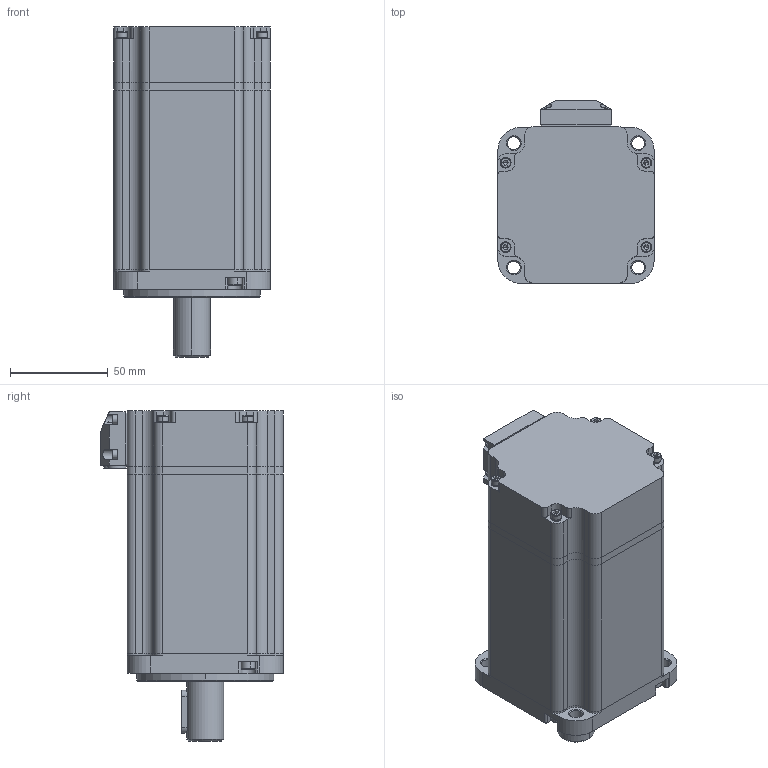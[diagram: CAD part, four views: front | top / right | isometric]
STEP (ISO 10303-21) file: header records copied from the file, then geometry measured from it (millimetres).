
FILE_DESCRIPTION (( 'STEP AP203' ), '1' );
FILE_NAME ('9.5890-SMC80S-0100-30AAK-5SH.STEP', '2020-09-29T07:09:35', ( 'PC' ), ( 'Microsoft' ), 'SwSTEP 2.0', 'SolidWorks 2018', '' );
FILE_SCHEMA (( 'CONFIG_CONTROL_DESIGN' ));
Length unit declared in the file: millimetre
Products named in the file (27): 10105010016-内六角圆柱头螺钉-GB70-85 M3×16(发黑); 80ヶ傷裔И璃; 207041246-蛌赽郪璃; 10105010023-内六角圆柱头螺钉-GB70-85 M3×40(发黑); 10109010094-前端盖-80毛塑（毛坯同：10109010051）; 10105080002-轴承-GB／T276-94深沟球轴承6002-2Z; 10105030019-弹簧垫圈-GB93-87 3MM; 10105030002-孔用挡圈-GB893.1-86 42MM; 10105080003-轴承-GB／T276-94 NSK深沟球轴承6004-2Z; 10110060026-萇埭竘盄菜-L36-W27.5-耳9-耳5.5; 10105030009-疏倛粟俶菜え-GB 955-87 ?42 汛=0.5 H=3.2; 10109030201-后端盖-80毛塑(毛坯同：10109030172); 10109090020-萇埭竘盄碟-L36-W27.5-耳10-耳8; 10105010077-内六角圆柱头螺钉-GB70-85 M4x14(发黑); 10105030001-孔用挡圈-GB893.1-86 32MM; 10105010005-内六角圆柱头螺钉-GB70-85 M2.5×10(发黑); 10109100002-轴承垫圈-SMH80-753028ENC(KGK80-0002); 10105030027-轴用挡圈-GB894.1-86 15MM; 10109020357-儂褲-80L92.9禱呿; 10105050002-埴芛す瑩A倰-6x6x22 GB 1096; 10214020143-晤鎢ん-TS6214N341; 207041246-蛌赽軞傖; 207011196-隅赽郪璃-80L58-3X0.8-12婧-2-10P陎倛; 9.5890-SMC80S-0100-30AAK-5SH; 10109070202-鎢攫欶-80羲耀梓こ; 10109010052-ヶ傷裔禱矗-SMH80-753028ENC(KEB801-0001M); 10108031260-蛌粣-80L152.9-L77.7
Assembly tree (39 placements, depth 4):
  9.5890-SMC80S-0100-30AAK-5SH
    207011196-隅赽郪璃-80L58-3X0.8-12婧-2-10P陎倛
      10109020357-儂褲-80L92.9禱呿
    207041246-蛌赽軞傖
      207041246-蛌赽郪璃
        10108031260-蛌粣-80L152.9-L77.7
      10105080002-轴承-GB／T276-94深沟球轴承6002-2Z
      10105080003-轴承-GB／T276-94 NSK深沟球轴承6004-2Z
      10109030201-后端盖-80毛塑(毛坯同：10109030172)
      10105030001-孔用挡圈-GB893.1-86 32MM
      10105030027-轴用挡圈-GB894.1-86 15MM
    10109010094-前端盖-80毛塑（毛坯同：10109010051）
      10109010052-ヶ傷裔禱矗-SMH80-753028ENC(KEB801-0001M)
      80ヶ傷裔И璃
    10105030002-孔用挡圈-GB893.1-86 42MM
    10105030009-疏倛粟俶菜え-GB 955-87 ?42 汛=0.5 H=3.2
    10105010077-内六角圆柱头螺钉-GB70-85 M4x14(发黑)  x4
    10109100002-轴承垫圈-SMH80-753028ENC(KGK80-0002)
    10214020143-晤鎢ん-TS6214N341
    10109070202-鎢攫欶-80羲耀梓こ
    10105010016-内六角圆柱头螺钉-GB70-85 M3×16(发黑)  x4
    10105010023-内六角圆柱头螺钉-GB70-85 M3×40(发黑)  x4
    10105030019-弹簧垫圈-GB93-87 3MM  x4
    10110060026-萇埭竘盄菜-L36-W27.5-耳9-耳5.5
    10109090020-萇埭竘盄碟-L36-W27.5-耳10-耳8
    10105010005-内六角圆柱头螺钉-GB70-85 M2.5×10(发黑)  x2
    10105050002-埴芛す瑩A倰-6x6x22 GB 1096
Bounding box: 80 x 93.5 x 168.9 mm (x, y, z)
Volume: 311457 mm3; surface area: 174002.7 mm2
Topology: 35 solids, 35 shells, 1659 faces, 4579 edges, 2889 vertices
Faces by surface type: cylinder 628, plane 586, sphere 172, torus 153, cone 110, bspline 10
Entity records: 52814 total; most frequent: CARTESIAN_POINT 13388, DIRECTION 7792, ORIENTED_EDGE 7638, EDGE_CURVE 3819, AXIS2_PLACEMENT_3D 3168, VERTEX_POINT 2489, CIRCLE 1733, EDGE_LOOP 1604
